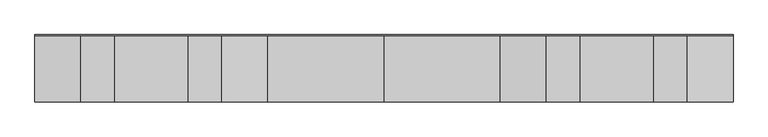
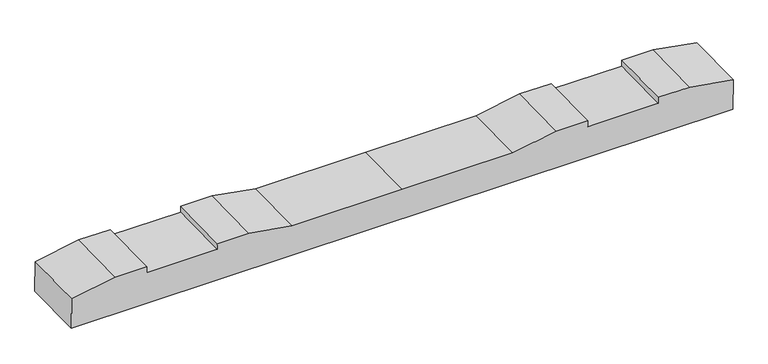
"""IFC4 building model written with IfcOpenShell, lengths in millimetres: proxy geometry, 轨枕-立面角度 : 轨枕-立面角度."""

from ifc_helpers import new_model, si_unit, frame, origin, place, context, project, spatial, polyline, outline, extrude, source, transform, mapped, element, save


def generic_models_45b08c93(model_context):
    return source(origin(), model_context, "Body", "SweptSolid", [
        extrude(outline(polyline([(0.0, 0.0), (2099.7669328, 0.0), (2099.7669328, -100.0206889), (1961.8834664, -124.4999999), (1861.8834664, -124.4999999), (1861.8834664, -104.5), (1637.8834664, -104.5), (1637.8834664, -124.4999999), (1537.8834664, -124.4999999), (1399.8834664, -99.9999999), (1049.8834664, -99.9999999), (699.8834664, -99.9999999), (561.8834664, -124.4999999), (461.8834664, -124.4999999), (461.8834664, -104.5), (237.8834664, -104.5), (237.8834664, -124.4999999), (137.8834664, -124.4999999), (0.0, -100.0206889), (0.0, 0.0)])), frame((-1049.8834664, -97.905825, -106.4645454), z_axis=(0.0, 0.9998029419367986, 0.019851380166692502), x_axis=(1.0, 0.0, 0.0)), (0.0, 0.0, 1.0), 200.0),
    ])


if __name__ == "__main__":
    model = new_model("IFC4")
    model_context = context("Model", 3, world=origin())
    ifc_project = project(units=[si_unit("LENGTHUNIT", "METRE", prefix="MILLI")], contexts=[model_context])
    site = spatial("IfcSite", under=ifc_project)
    building = spatial("IfcBuilding", under=site)
    placement = place(None, origin())
    generic_models_shape = generic_models_45b08c93(model_context)
    element("IfcBuildingElementProxy", 1, Name="轨枕-立面角度 : 轨枕-立面角度", ObjectType="轨枕-立面角度 : 轨枕-立面角度", at=placement, inside=building, context=model_context, shape_type="MappedRepresentation", body=[
        mapped(generic_models_shape, transform((0.0, 0.0, 0.0), x_axis=(1.0, 0.0, 0.0), y_axis=(0.0, 1.0, 0.0), z_axis=(0.0, 0.0, 1.0))),
    ])
    save(model, "model.ifc")
